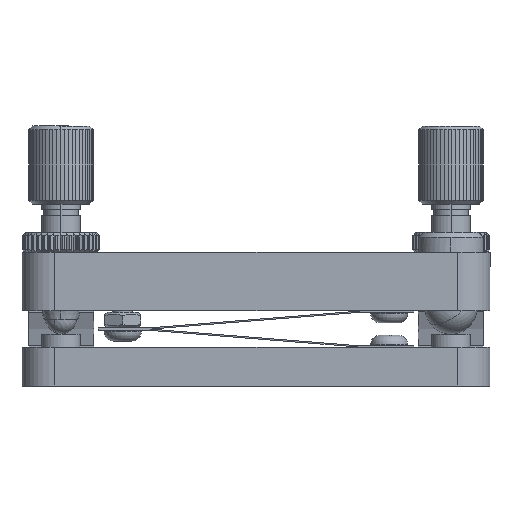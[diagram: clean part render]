
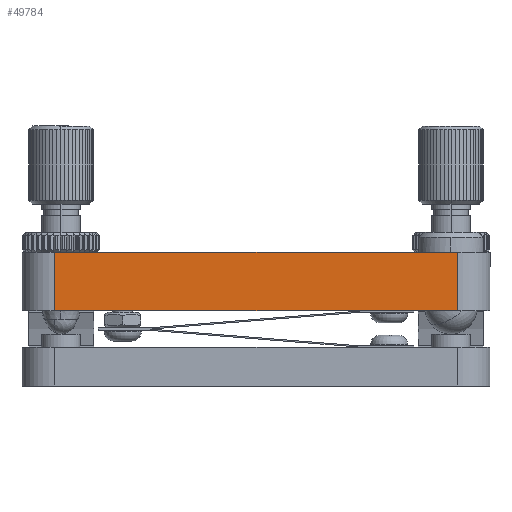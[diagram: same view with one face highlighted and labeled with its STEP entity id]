
A CAD part, front view. The second image highlights one B-rep face of the part: STEP entity #49784.
In plain terms, the highlighted planar face has unit normal (0, -1, 0).
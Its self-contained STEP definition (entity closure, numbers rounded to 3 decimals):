
#27041 = CARTESIAN_POINT ( 'NONE',  ( 70., 0., 0. ) ) ;
#27264 = CARTESIAN_POINT ( 'NONE',  ( 8., 0., 0. ) ) ;
#27265 = DIRECTION ( 'NONE',  ( -1., 0., 0. ) ) ;
#27266 = VECTOR ( 'NONE', #27265, 1000. ) ;
#27267 = CARTESIAN_POINT ( 'NONE',  ( 39., 0., 0. ) ) ;
#27268 = LINE ( 'NONE', #27267, #27266 ) ;
#27885 = DIRECTION ( 'NONE',  ( 0., 0., 1. ) ) ;
#27886 = VECTOR ( 'NONE', #27885, 1000. ) ;
#27887 = CARTESIAN_POINT ( 'NONE',  ( 70., 0., 9. ) ) ;
#27888 = LINE ( 'NONE', #27887, #27886 ) ;
#27927 = DIRECTION ( 'NONE',  ( -1., 0., 0. ) ) ;
#27928 = VECTOR ( 'NONE', #27927, 1000. ) ;
#27929 = CARTESIAN_POINT ( 'NONE',  ( 3., 0., 9. ) ) ;
#27930 = LINE ( 'NONE', #27929, #27928 ) ;
#27959 = CARTESIAN_POINT ( 'NONE',  ( 70., 0., 9. ) ) ;
#27966 = CARTESIAN_POINT ( 'NONE',  ( 8., 0., 9. ) ) ;
#27967 = DIRECTION ( 'NONE',  ( 1., 0., 0. ) ) ;
#27968 = DIRECTION ( 'NONE',  ( 0., -1., 0. ) ) ;
#27969 = CARTESIAN_POINT ( 'NONE',  ( 3., 0., 9. ) ) ;
#27970 = AXIS2_PLACEMENT_3D ( 'NONE', #27969, #27968, #27967 ) ;
#27971 = PLANE ( 'NONE',  #27970 ) ;
#27972 = FACE_OUTER_BOUND ( 'NONE', #49769, .T. ) ;
#28020 = DIRECTION ( 'NONE',  ( 0., 0., 1. ) ) ;
#28021 = VECTOR ( 'NONE', #28020, 1000. ) ;
#28022 = CARTESIAN_POINT ( 'NONE',  ( 8., 0., 9. ) ) ;
#28023 = LINE ( 'NONE', #28022, #28021 ) ;
#49212 = VERTEX_POINT ( 'NONE', #27041 ) ;
#49314 = EDGE_CURVE ( 'NONE', #49212, #49315, #27268, .T. ) ;
#49315 = VERTEX_POINT ( 'NONE', #27264 ) ;
#49713 = EDGE_CURVE ( 'NONE', #49212, #49790, #27888, .T. ) ;
#49768 = ORIENTED_EDGE ( 'NONE', *, *, #49314, .F. ) ;
#49769 = EDGE_LOOP ( 'NONE', ( #49779, #49768, #49783, #49786 ) ) ;
#49770 = EDGE_CURVE ( 'NONE', #49790, #49785, #27930, .T. ) ;
#49779 = ORIENTED_EDGE ( 'NONE', *, *, #49791, .F. ) ;
#49783 = ORIENTED_EDGE ( 'NONE', *, *, #49713, .T. ) ;
#49784 = ADVANCED_FACE ( 'NONE', ( #27972 ), #27971, .T. ) ;
#49785 = VERTEX_POINT ( 'NONE', #27966 ) ;
#49786 = ORIENTED_EDGE ( 'NONE', *, *, #49770, .T. ) ;
#49790 = VERTEX_POINT ( 'NONE', #27959 ) ;
#49791 = EDGE_CURVE ( 'NONE', #49315, #49785, #28023, .T. ) ;
